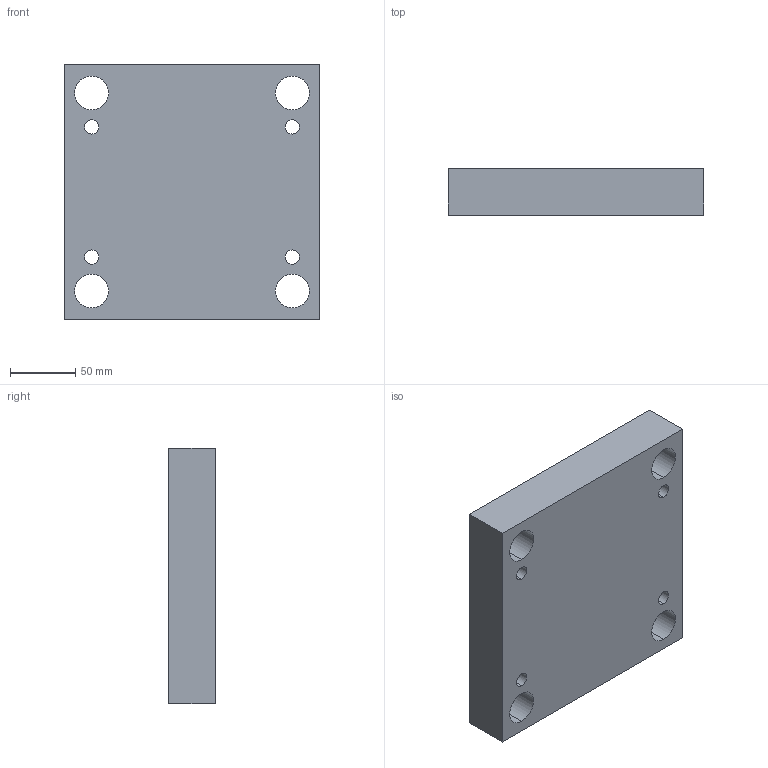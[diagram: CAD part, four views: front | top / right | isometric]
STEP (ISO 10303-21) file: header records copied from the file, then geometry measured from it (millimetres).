
FILE_DESCRIPTION (( 'STEP AP214' ), '1' );
FILE_NAME ('L45_196x196x36.STEP', '2018-10-05T18:39:32', ( '' ), ( '' ), 'SwSTEP 2.0', 'SolidWorks 2014', '' );
FILE_SCHEMA (( 'AUTOMOTIVE_DESIGN' ));
Length unit declared in the file: millimetre
Products named in the file (1): L45_196x196x36
Bounding box: 196 x 36 x 196 mm (x, y, z)
Volume: 1292837.4 mm3; surface area: 116786.7 mm2
Topology: 1 solids, 1 shells, 22 faces, 60 edges, 40 vertices
Faces by surface type: cylinder 16, plane 6
Entity records: 782 total; most frequent: DIRECTION 138, CARTESIAN_POINT 123, ORIENTED_EDGE 120, EDGE_CURVE 60, AXIS2_PLACEMENT_3D 55, VERTEX_POINT 40, EDGE_LOOP 38, CIRCLE 32
